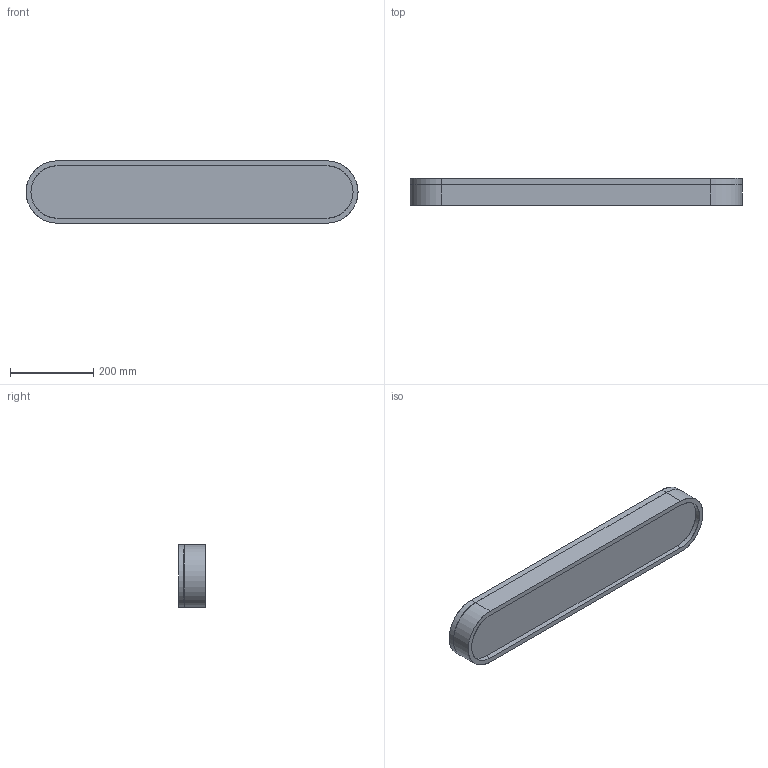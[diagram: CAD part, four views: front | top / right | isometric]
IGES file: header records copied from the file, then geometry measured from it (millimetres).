
Start section: SolidWorks IGES file using analytic representation for surfaces
Global section: file name: F:\燠隴矨\3D\2026-1\Strata Vein Linear Ceiling Light-L80cm.IGS,15; native system: HSolidWorks 2022; preprocessor: SolidWorks 2022; author: MyPC; date: 260126.140527; units: millimetre
Bounding box: 800 x 65 x 150 mm (x, y, z)
Surface area: 619029.2 mm2 (no closed solid volume)
Topology: 0 solids, 0 shells, 22 faces, 592 edges, 592 vertices
Faces by surface type: bspline 14, revolution 8
